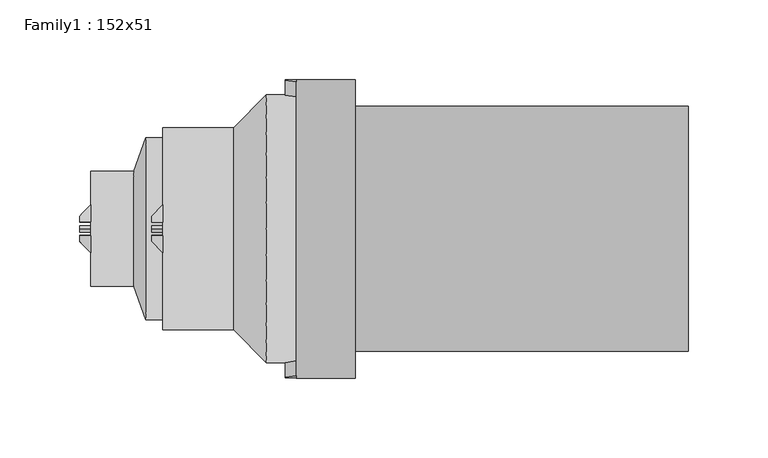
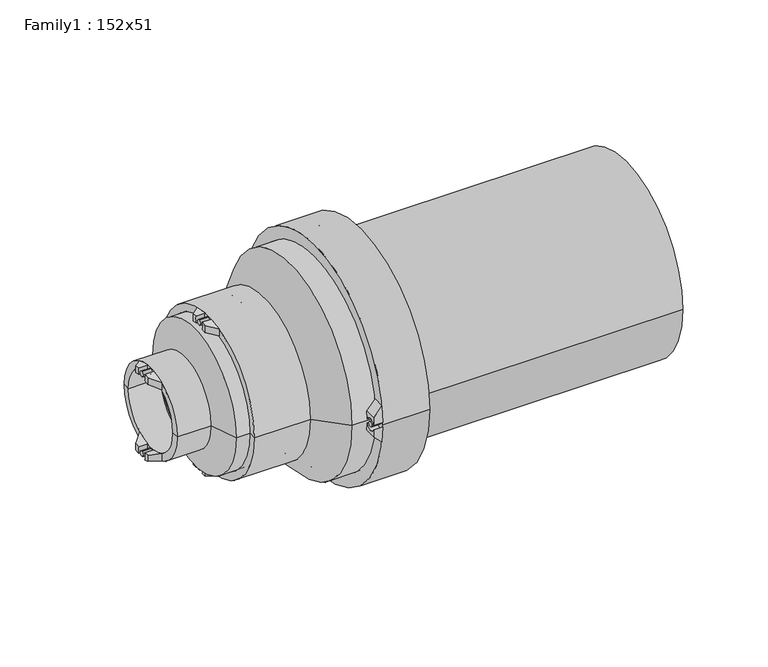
"""IFC4 building model written with IfcOpenShell, lengths in millimetres: proxy geometry, Family1 : 152x51."""

from ifc_helpers import new_model, si_unit, point, frame, frame_2d, origin, place, context, project, spatial, polyline, circle_curve, ellipse_curve, trimmed, segment, composite_curve, outline, extrude, source, transform, mapped, element, save
from ifc_brep_helpers import plane_surface, cylinder_surface, revolved_surface, advanced_brep


def family1_152x51_664cd001(model_context):
    return source(origin(), model_context, "Body", "SolidModel", [
        advanced_brep(
        [(-382.6, 4.0250429, 30.2836842), (-382.6, 4.3677433, 35.6836842), (-382.6, 7.94, 35.0622147), (-382.6, 7.94, 29.5001508), (-375.5, 15.0, 32.6711264), (-375.5, 4.3677433, 35.6836842), (-375.5, 4.0250429, 30.2836842), (-375.5, 15.0, 26.6139531)],
        [
            (0, 1, circle_curve(frame((-382.6, 0.0, 33.25), z_axis=(1.0, 0.0, 0.0), x_axis=(0.0, 0.0, -1.0)), 5.0)),
            (1, 2, circle_curve(frame((-382.6, 0.0, 0.0), z_axis=(-1.0, 0.0, 0.0), x_axis=(0.0, 0.0, -1.0)), 35.95)),
            (2, 3),
            (3, 0, circle_curve(frame((-382.6, 0.0, 0.0), z_axis=(1.0, 0.0, 0.0), x_axis=(0.0, 0.0, -1.0)), 30.55)),
            (4, 5, circle_curve(frame((-375.5, 0.0, 0.0), z_axis=(1.0, 0.0, 0.0), x_axis=(0.0, 0.0, -1.0)), 35.95)),
            (5, 6, circle_curve(frame((-375.5, 0.0, 33.25), z_axis=(-1.0, 0.0, 0.0), x_axis=(0.0, 0.0, -1.0)), 5.0)),
            (6, 7, circle_curve(frame((-375.5, 0.0, 0.0), z_axis=(-1.0, 0.0, 0.0), x_axis=(0.0, 0.0, -1.0)), 30.55)),
            (7, 4),
            (6, 0),
            (3, 7, ellipse_curve(frame((-390.5849858, 0.0, 0.0), z_axis=(-0.7051064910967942, 0.709101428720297, 0.0), x_axis=(0.7091014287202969, 0.7051064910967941, 0.0)), 43.3267888, 30.55)),
            (4, 2, ellipse_curve(frame((-390.5849858, 0.0, 0.0), z_axis=(0.7051064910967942, -0.709101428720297, 0.0), x_axis=(-0.7091014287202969, -0.7051064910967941, 0.0)), 50.9852064, 35.95)),
            (1, 5),
        ],
        [
            plane_surface(frame((-382.6, 15.0, 32.6711264), z_axis=(-1.0, 0.0, 0.0), x_axis=(0.0, 0.0, -1.0))),
            plane_surface(frame((-375.5, 15.0, 32.6711264), z_axis=(1.0, 0.0, 0.0), x_axis=(0.0, 0.0, 1.0))),
            revolved_surface(polyline([(-359.8618979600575, 0.0, -30.55), (-421.30807363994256, 0.0, -30.55)]), (-375.5, 0.0, 0.0), (1.0, 0.0, 0.0)),
            cylinder_surface(frame((-375.5, 0.0, 0.0), z_axis=(-1.0, 0.0, 0.0), x_axis=(0.0, 0.0, -1.0)), 35.95),
            revolved_surface(polyline([(-382.6, 0.0, 28.25), (-375.5, 0.0, 28.25)]), (-375.5, 0.0, 33.25), (-1.0, 0.0, 0.0)),
            plane_surface(frame((-375.5, 15.0, -35.95), z_axis=(-0.7051064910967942, 0.709101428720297, 0.0), x_axis=(0.0, 0.0, 1.0))),
        ],
        [
            (0, [[1, 2, 3, 4]]),
            (1, [[5, 6, 7, 8]]),
            (2, [[-7, 9, -4, 10]]),
            (3, [[-5, 11, -2, 12]]),
            (4, [[-1, -9, -6, -12]]),
            (5, [[-3, -11, -8, -10]]),
        ],
    ),
        advanced_brep(
        [(-382.6, -4.3677433, 35.6836842), (-382.6, -4.0250429, 30.2836842), (-382.6, -7.94, 29.5001508), (-382.6, -7.94, 35.0622147), (-375.5, -4.3677433, 35.6836842), (-375.5, -15.0, 32.6711264), (-375.5, -15.0, 26.6139531), (-375.5, -4.0250429, 30.2836842)],
        [
            (0, 1, circle_curve(frame((-382.6, 0.0, 33.25), z_axis=(1.0, 0.0, 0.0), x_axis=(0.0, 0.0, -1.0)), 5.0)),
            (1, 2, circle_curve(frame((-382.6, 0.0, 0.0), z_axis=(1.0, 0.0, 0.0), x_axis=(0.0, 0.0, -1.0)), 30.55)),
            (2, 3),
            (3, 0, circle_curve(frame((-382.6, 0.0, 0.0), z_axis=(-1.0, 0.0, 0.0), x_axis=(0.0, 0.0, -1.0)), 35.95)),
            (4, 5, circle_curve(frame((-375.5, 0.0, 0.0), z_axis=(1.0, 0.0, 0.0), x_axis=(0.0, 0.0, -1.0)), 35.95)),
            (5, 6),
            (6, 7, circle_curve(frame((-375.5, 0.0, 0.0), z_axis=(-1.0, 0.0, 0.0), x_axis=(0.0, 0.0, -1.0)), 30.55)),
            (7, 4, circle_curve(frame((-375.5, 0.0, 33.25), z_axis=(-1.0, 0.0, 0.0), x_axis=(0.0, 0.0, -1.0)), 5.0)),
            (6, 2, ellipse_curve(frame((-390.5849858, 0.0, 0.0), z_axis=(-0.7051064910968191, -0.7091014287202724, 0.0), x_axis=(0.709101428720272, -0.7051064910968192, 0.0)), 43.3267888, 30.55)),
            (1, 7),
            (4, 0),
            (3, 5, ellipse_curve(frame((-390.5849858, 0.0, 0.0), z_axis=(0.7051064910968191, 0.7091014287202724, 0.0), x_axis=(-0.709101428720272, 0.7051064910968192, 0.0)), 50.9852064, 35.95)),
        ],
        [
            plane_surface(frame((-382.6, 15.0, 32.6711264), z_axis=(-1.0, 0.0, 0.0), x_axis=(0.0, 0.0, -1.0))),
            plane_surface(frame((-375.5, 15.0, 32.6711264), z_axis=(1.0, 0.0, 0.0), x_axis=(0.0, 0.0, 1.0))),
            revolved_surface(polyline([(-359.86189796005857, 0.0, -30.55), (-421.30807363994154, 0.0, -30.55)]), (-375.5, 0.0, 0.0), (1.0, 0.0, 0.0)),
            cylinder_surface(frame((-375.5, 0.0, 0.0), z_axis=(-1.0, 0.0, 0.0), x_axis=(0.0, 0.0, -1.0)), 35.95),
            revolved_surface(polyline([(-382.6, 0.0, 28.25), (-375.5, 0.0, 28.25)]), (-375.5, 0.0, 33.25), (-1.0, 0.0, 0.0)),
            plane_surface(frame((-382.6, -7.94, -35.95), z_axis=(-0.7051064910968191, -0.7091014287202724, 0.0), x_axis=(0.0, 0.0, 1.0))),
        ],
        [
            (0, [[1, 2, 3, 4]]),
            (1, [[5, 6, 7, 8]]),
            (2, [[-7, 9, -2, 10]]),
            (3, [[-5, 11, -4, 12]]),
            (4, [[-1, -11, -8, -10]]),
            (5, [[-3, -9, -6, -12]]),
        ],
    ),
        advanced_brep(
        [(-382.6, 4.3677433, -35.6836842), (-382.6, 4.0250429, -30.2836842), (-382.6, 7.94, -29.5001508), (-382.6, 7.94, -35.0622147), (-375.5, 4.3677433, -35.6836842), (-375.5, 15.0, -32.6711264), (-375.5, 15.0, -26.6139531), (-375.5, 4.0250429, -30.2836842)],
        [
            (0, 1, circle_curve(frame((-382.6, 0.0, -33.25), z_axis=(1.0, 0.0, 0.0), x_axis=(0.0, 0.0, -1.0)), 5.0)),
            (1, 2, circle_curve(frame((-382.6, 0.0, 0.0), z_axis=(1.0, 0.0, 0.0), x_axis=(0.0, 0.0, -1.0)), 30.55)),
            (2, 3),
            (3, 0, circle_curve(frame((-382.6, 0.0, 0.0), z_axis=(-1.0, 0.0, 0.0), x_axis=(0.0, 0.0, -1.0)), 35.95)),
            (4, 5, circle_curve(frame((-375.5, 0.0, 0.0), z_axis=(1.0, 0.0, 0.0), x_axis=(0.0, 0.0, -1.0)), 35.95)),
            (5, 6),
            (6, 7, circle_curve(frame((-375.5, 0.0, 0.0), z_axis=(-1.0, 0.0, 0.0), x_axis=(0.0, 0.0, -1.0)), 30.55)),
            (7, 4, circle_curve(frame((-375.5, 0.0, -33.25), z_axis=(-1.0, 0.0, 0.0), x_axis=(0.0, 0.0, -1.0)), 5.0)),
            (6, 2, ellipse_curve(frame((-390.5849858, 0.0, 0.0), z_axis=(-0.7051064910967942, 0.709101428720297, 0.0), x_axis=(0.7091014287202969, 0.7051064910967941, 0.0)), 43.3267888, 30.55)),
            (1, 7),
            (4, 0),
            (3, 5, ellipse_curve(frame((-390.5849858, 0.0, 0.0), z_axis=(0.7051064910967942, -0.709101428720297, 0.0), x_axis=(-0.7091014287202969, -0.7051064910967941, 0.0)), 50.9852064, 35.95)),
        ],
        [
            plane_surface(frame((-382.6, 15.0, 32.6711264), z_axis=(-1.0, 0.0, 0.0), x_axis=(0.0, 0.0, -1.0))),
            plane_surface(frame((-375.5, 15.0, 32.6711264), z_axis=(1.0, 0.0, 0.0), x_axis=(0.0, 0.0, 1.0))),
            revolved_surface(polyline([(-359.8618979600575, 0.0, -30.55), (-421.30807363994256, 0.0, -30.55)]), (-375.5, 0.0, 0.0), (1.0, 0.0, 0.0)),
            cylinder_surface(frame((-375.5, 0.0, 0.0), z_axis=(-1.0, 0.0, 0.0), x_axis=(0.0, 0.0, -1.0)), 35.95),
            revolved_surface(polyline([(-382.6, 0.0, -38.25), (-375.5, 0.0, -38.25)]), (-375.5, 0.0, -33.25), (-1.0, 0.0, 0.0)),
            plane_surface(frame((-375.5, 15.0, -35.95), z_axis=(-0.7051064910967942, 0.709101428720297, 0.0), x_axis=(0.0, 0.0, 1.0))),
        ],
        [
            (0, [[1, 2, 3, 4]]),
            (1, [[5, 6, 7, 8]]),
            (2, [[-7, 9, -2, 10]]),
            (3, [[-5, 11, -4, 12]]),
            (4, [[-1, -11, -8, -10]]),
            (5, [[-3, -9, -6, -12]]),
        ],
    ),
        advanced_brep(
        [(-382.6, -4.0250429, -30.2836842), (-382.6, -4.3677433, -35.6836842), (-382.6, -7.94, -35.0622147), (-382.6, -7.94, -29.5001508), (-375.5, -15.0, -32.6711264), (-375.5, -4.3677433, -35.6836842), (-375.5, -4.0250429, -30.2836842), (-375.5, -15.0, -26.6139531)],
        [
            (0, 1, circle_curve(frame((-382.6, 0.0, -33.25), z_axis=(1.0, 0.0, 0.0), x_axis=(0.0, 0.0, -1.0)), 5.0)),
            (1, 2, circle_curve(frame((-382.6, 0.0, 0.0), z_axis=(-1.0, 0.0, 0.0), x_axis=(0.0, 0.0, -1.0)), 35.95)),
            (2, 3),
            (3, 0, circle_curve(frame((-382.6, 0.0, 0.0), z_axis=(1.0, 0.0, 0.0), x_axis=(0.0, 0.0, -1.0)), 30.55)),
            (4, 5, circle_curve(frame((-375.5, 0.0, 0.0), z_axis=(1.0, 0.0, 0.0), x_axis=(0.0, 0.0, -1.0)), 35.95)),
            (5, 6, circle_curve(frame((-375.5, 0.0, -33.25), z_axis=(-1.0, 0.0, 0.0), x_axis=(0.0, 0.0, -1.0)), 5.0)),
            (6, 7, circle_curve(frame((-375.5, 0.0, 0.0), z_axis=(-1.0, 0.0, 0.0), x_axis=(0.0, 0.0, -1.0)), 30.55)),
            (7, 4),
            (6, 0),
            (3, 7, ellipse_curve(frame((-390.5849858, 0.0, 0.0), z_axis=(-0.7051064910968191, -0.7091014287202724, 0.0), x_axis=(0.709101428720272, -0.7051064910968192, 0.0)), 43.3267888, 30.55)),
            (4, 2, ellipse_curve(frame((-390.5849858, 0.0, 0.0), z_axis=(0.7051064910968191, 0.7091014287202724, 0.0), x_axis=(-0.709101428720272, 0.7051064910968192, 0.0)), 50.9852064, 35.95)),
            (1, 5),
        ],
        [
            plane_surface(frame((-382.6, 15.0, 32.6711264), z_axis=(-1.0, 0.0, 0.0), x_axis=(0.0, 0.0, -1.0))),
            plane_surface(frame((-375.5, 15.0, 32.6711264), z_axis=(1.0, 0.0, 0.0), x_axis=(0.0, 0.0, 1.0))),
            revolved_surface(polyline([(-359.86189796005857, 0.0, -30.55), (-421.30807363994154, 0.0, -30.55)]), (-375.5, 0.0, 0.0), (1.0, 0.0, 0.0)),
            cylinder_surface(frame((-375.5, 0.0, 0.0), z_axis=(-1.0, 0.0, 0.0), x_axis=(0.0, 0.0, -1.0)), 35.95),
            revolved_surface(polyline([(-382.6, 0.0, -38.25), (-375.5, 0.0, -38.25)]), (-375.5, 0.0, -33.25), (-1.0, 0.0, 0.0)),
            plane_surface(frame((-382.6, -7.94, -35.95), z_axis=(-0.7051064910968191, -0.7091014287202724, 0.0), x_axis=(0.0, 0.0, 1.0))),
        ],
        [
            (0, [[1, 2, 3, 4]]),
            (1, [[5, 6, 7, 8]]),
            (2, [[-7, 9, -4, 10]]),
            (3, [[-5, 11, -2, 12]]),
            (4, [[-1, -9, -6, -12]]),
            (5, [[-3, -11, -8, -10]]),
        ],
    ),
        extrude(outline(composite_curve([segment(trimmed(circle_curve(frame_2d((0.0, 33.25)), 2.0), [point((0.0, 35.25))], [point((0.0, 31.25))], False, "CARTESIAN"), True, "CONTINUOUS"), segment(trimmed(circle_curve(frame_2d((0.0, 33.25)), 2.0), [point((0.0, 31.25))], [point((0.0, 35.25))], False, "CARTESIAN"), True, "CONTINUOUS")], self_intersect=False)), frame((-382.6, 0.0, 0.0), z_axis=(1.0, 0.0, 0.0), x_axis=(0.0, 1.0, 0.0)), (0.0, 0.0, 1.0), 7.1),
        extrude(outline(composite_curve([segment(trimmed(circle_curve(frame_2d((0.0, -33.25)), 2.0), [point((0.0, -31.25))], [point((0.0, -35.25))], False, "CARTESIAN"), True, "CONTINUOUS"), segment(trimmed(circle_curve(frame_2d((0.0, -33.25)), 2.0), [point((0.0, -35.25))], [point((0.0, -31.25))], False, "CARTESIAN"), True, "CONTINUOUS")], self_intersect=False)), frame((-382.6, 0.0, 0.0), z_axis=(1.0, 0.0, 0.0), x_axis=(0.0, 1.0, 0.0)), (0.0, 0.0, 1.0), 7.1),
        advanced_brep(
        [(-341.0, 57.15, 0.0), (-341.0, -57.15, 0.0), (-348.5, -36.1, 0.0), (-348.5, 36.1, 0.0), (-292.0, 57.15, 0.0), (-292.0, -57.15, 0.0), (-292.0, 50.65, 0.0), (-292.0, -50.65, 0.0), (-333.7, 50.65, 0.0), (-333.7, -50.65, 0.0), (-375.5, 30.4, 0.0), (-375.5, -30.4, 0.0), (-350.3, -30.4, 0.0), (-350.3, 30.4, 0.0), (-375.5, 36.1, 0.0), (-375.5, -36.1, 0.0), (-342.5, 28.0, 0.0), (-342.5, -28.0, 0.0), (-350.3, 28.0, 0.0), (-350.3, -28.0, 0.0)],
        [
            (0, 1, circle_curve(frame((-341.0, 0.0, 0.0), z_axis=(-1.0, 0.0, 0.0), x_axis=(0.0, -1.0, 0.0)), 57.15)),
            (1, 2),
            (2, 3, circle_curve(frame((-348.5, 0.0, 0.0), z_axis=(1.0, 0.0, 0.0), x_axis=(0.0, -1.0, 0.0)), 36.1)),
            (3, 0),
            (1, 0, circle_curve(frame((-341.0, 0.0, 0.0), z_axis=(-1.0, 0.0, 0.0), x_axis=(0.0, -1.0, 0.0)), 57.15)),
            (3, 2, circle_curve(frame((-348.5, 0.0, 0.0), z_axis=(1.0, 0.0, 0.0), x_axis=(0.0, -1.0, 0.0)), 36.1)),
            (4, 5, circle_curve(frame((-292.0, 0.0, 0.0), z_axis=(-1.0, 0.0, 0.0), x_axis=(0.0, -1.0, 0.0)), 57.15)),
            (5, 1),
            (0, 4),
            (5, 4, circle_curve(frame((-292.0, 0.0, 0.0), z_axis=(-1.0, 0.0, 0.0), x_axis=(0.0, -1.0, 0.0)), 57.15)),
            (6, 7, circle_curve(frame((-292.0, 0.0, 0.0), z_axis=(-1.0, 0.0, 0.0), x_axis=(0.0, -1.0, 0.0)), 50.65)),
            (7, 5),
            (4, 6),
            (7, 6, circle_curve(frame((-292.0, 0.0, 0.0), z_axis=(-1.0, 0.0, 0.0), x_axis=(0.0, -1.0, 0.0)), 50.65)),
            (8, 9, circle_curve(frame((-333.7, 0.0, 0.0), z_axis=(-1.0, 0.0, 0.0), x_axis=(0.0, -1.0, 0.0)), 50.65)),
            (9, 7),
            (6, 8),
            (9, 8, circle_curve(frame((-333.7, 0.0, 0.0), z_axis=(-1.0, 0.0, 0.0), x_axis=(0.0, -1.0, 0.0)), 50.65)),
            (10, 11, circle_curve(frame((-375.5, 0.0, 0.0), z_axis=(-1.0, 0.0, 0.0), x_axis=(0.0, -1.0, 0.0)), 30.4)),
            (11, 12),
            (12, 13, circle_curve(frame((-350.3, 0.0, 0.0), z_axis=(1.0, 0.0, 0.0), x_axis=(0.0, -1.0, 0.0)), 30.4)),
            (13, 10),
            (11, 10, circle_curve(frame((-375.5, 0.0, 0.0), z_axis=(-1.0, 0.0, 0.0), x_axis=(0.0, -1.0, 0.0)), 30.4)),
            (13, 12, circle_curve(frame((-350.3, 0.0, 0.0), z_axis=(1.0, 0.0, 0.0), x_axis=(0.0, -1.0, 0.0)), 30.4)),
            (14, 15, circle_curve(frame((-375.5, 0.0, 0.0), z_axis=(-1.0, 0.0, 0.0), x_axis=(0.0, -1.0, 0.0)), 36.1)),
            (15, 11),
            (10, 14),
            (15, 14, circle_curve(frame((-375.5, 0.0, 0.0), z_axis=(-1.0, 0.0, 0.0), x_axis=(0.0, -1.0, 0.0)), 36.1)),
            (2, 15),
            (14, 3),
            (16, 17, circle_curve(frame((-342.5, 0.0, 0.0), z_axis=(-1.0, 0.0, 0.0), x_axis=(0.0, -1.0, 0.0)), 28.0)),
            (17, 9),
            (8, 16),
            (17, 16, circle_curve(frame((-342.5, 0.0, 0.0), z_axis=(-1.0, 0.0, 0.0), x_axis=(0.0, -1.0, 0.0)), 28.0)),
            (18, 19, circle_curve(frame((-350.3, 0.0, 0.0), z_axis=(-1.0, 0.0, 0.0), x_axis=(0.0, -1.0, 0.0)), 28.0)),
            (19, 17),
            (16, 18),
            (19, 18, circle_curve(frame((-350.3, 0.0, 0.0), z_axis=(-1.0, 0.0, 0.0), x_axis=(0.0, -1.0, 0.0)), 28.0)),
            (12, 19),
            (18, 13),
        ],
        [
            revolved_surface(polyline([(-348.5, -36.1, 0.0), (-341.0, -57.15, 0.0)]), (-1905.0018184, 0.0, 0.0), (1.0, 0.0, 0.0)),
            cylinder_surface(frame((-1905.0018184, 0.0, 0.0), z_axis=(1.0, 0.0, 0.0), x_axis=(0.0, -1.0, 0.0)), 57.15),
            plane_surface(frame((-292.0, 0.0, 0.0), z_axis=(1.0, 0.0, 0.0), x_axis=(0.0, -1.0, 0.0))),
            revolved_surface(polyline([(-292.0, -50.65, 0.0), (-333.70000000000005, -50.65, 0.0)]), (-1905.0018184, 0.0, 0.0), (1.0, 0.0, 0.0)),
            revolved_surface(polyline([(-350.29999999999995, -30.4, 0.0), (-375.5, -30.4, 0.0)]), (-1905.0018184, 0.0, 0.0), (1.0, 0.0, 0.0)),
            plane_surface(frame((-375.5, 0.0, 0.0), z_axis=(-1.0, 0.0, 0.0), x_axis=(0.0, -1.0, 0.0))),
            cylinder_surface(frame((-1905.0018184, 0.0, 0.0), z_axis=(1.0, 0.0, 0.0), x_axis=(0.0, -1.0, 0.0)), 36.1),
            revolved_surface(polyline([(-333.7, -50.65, 0.0), (-342.5, -28.0, 0.0)]), (-1905.0018184, 0.0, 0.0), (1.0, 0.0, 0.0)),
            revolved_surface(polyline([(-342.5, -28.0, 0.0), (-350.29999999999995, -28.0, 0.0)]), (-1905.0018184, 0.0, 0.0), (1.0, 0.0, 0.0)),
            plane_surface(frame((-350.3, 0.0, 0.0), z_axis=(-1.0, 0.0, 0.0), x_axis=(0.0, -1.0, 0.0))),
        ],
        [
            (0, [[1, 2, 3, 4]]),
            (0, [[5, -4, 6, -2]]),
            (1, [[7, 8, -1, 9]]),
            (1, [[10, -9, -5, -8]]),
            (2, [[11, 12, -7, 13]]),
            (2, [[14, -13, -10, -12]]),
            (3, [[15, 16, -11, 17]]),
            (3, [[18, -17, -14, -16]]),
            (4, [[19, 20, 21, 22]]),
            (4, [[23, -22, 24, -20]]),
            (5, [[25, 26, -19, 27]]),
            (5, [[28, -27, -23, -26]]),
            (6, [[-3, 29, -25, 30]]),
            (6, [[-6, -30, -28, -29]]),
            (7, [[31, 32, -15, 33]]),
            (7, [[34, -33, -18, -32]]),
            (8, [[35, 36, -31, 37]]),
            (8, [[38, -37, -34, -36]]),
            (9, [[-21, 39, -35, 40]]),
            (9, [[-24, -40, -38, -39]]),
        ],
    ),
        advanced_brep(
        [(-253.4, -84.3310253, 1.7890431), (-253.4, -93.6310253, 1.8851008), (-253.4, -93.3128014, 7.94), (-253.4, -83.9754661, 7.94), (-246.3, -92.4409136, 15.0), (-246.3, -93.6310253, 1.8851008), (-246.3, -84.3310253, 1.7890431), (-246.3, -83.005557, 15.0)],
        [
            (0, 1, circle_curve(frame((-253.4, -89.0, 0.0), z_axis=(1.0, 0.0, 0.0), x_axis=(0.0, 1.0, 0.0)), 5.0)),
            (1, 2, circle_curve(frame((-253.4, 0.0, 0.0), z_axis=(-1.0, 0.0, 0.0), x_axis=(0.0, 1.0, 0.0)), 93.65)),
            (2, 3),
            (3, 0, circle_curve(frame((-253.4, 0.0, 0.0), z_axis=(1.0, 0.0, 0.0), x_axis=(0.0, 1.0, 0.0)), 84.35)),
            (4, 5, circle_curve(frame((-246.3, 0.0, 0.0), z_axis=(1.0, 0.0, 0.0), x_axis=(0.0, 1.0, 0.0)), 93.65)),
            (5, 6, circle_curve(frame((-246.3, -89.0, 0.0), z_axis=(-1.0, 0.0, 0.0), x_axis=(0.0, 1.0, 0.0)), 5.0)),
            (6, 7, circle_curve(frame((-246.3, 0.0, 0.0), z_axis=(-1.0, 0.0, 0.0), x_axis=(0.0, 1.0, 0.0)), 84.35)),
            (7, 4),
            (6, 0),
            (3, 7, ellipse_curve(frame((-261.3849858, 0.0, 0.0), z_axis=(-0.705106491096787, 0.0, 0.7091014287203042), x_axis=(0.7091014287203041, 0.0, 0.705106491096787)), 119.6273202, 84.35)),
            (4, 2, ellipse_curve(frame((-261.3849858, 0.0, 0.0), z_axis=(0.705106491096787, 0.0, -0.7091014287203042), x_axis=(-0.7091014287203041, 0.0, -0.705106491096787)), 132.8168173, 93.65)),
            (1, 5),
        ],
        [
            plane_surface(frame((-253.4, -92.4409136, 15.0), z_axis=(-1.0, 0.0, 0.0), x_axis=(0.0, 1.0, 0.0))),
            plane_surface(frame((-246.3, -92.4409136, 15.0), z_axis=(1.0, 0.0, 0.0), x_axis=(0.0, -1.0, 0.0))),
            revolved_surface(polyline([(-176.55708213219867, 84.35, 0.0), (-346.2128894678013, 84.35, 0.0)]), (-246.3, 0.0, 0.0), (1.0, 0.0, 0.0)),
            cylinder_surface(frame((-246.3, 0.0, 0.0), z_axis=(-1.0, 0.0, 0.0), x_axis=(0.0, 1.0, 0.0)), 93.65),
            revolved_surface(polyline([(-253.4, -84.0, 0.0), (-246.3, -84.0, 0.0)]), (-246.3, -89.0, 0.0), (-1.0, 0.0, 0.0)),
            plane_surface(frame((-246.3, 93.65, 15.0), z_axis=(-0.705106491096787, 0.0, 0.7091014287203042), x_axis=(0.0, -1.0, 0.0))),
        ],
        [
            (0, [[1, 2, 3, 4]]),
            (1, [[5, 6, 7, 8]]),
            (2, [[-7, 9, -4, 10]]),
            (3, [[-5, 11, -2, 12]]),
            (4, [[-1, -9, -6, -12]]),
            (5, [[-3, -11, -8, -10]]),
        ],
    ),
        advanced_brep(
        [(-253.4, -93.6310253, -1.8851008), (-253.4, -84.3310253, -1.7890431), (-253.4, -83.9754661, -7.94), (-253.4, -93.3128014, -7.94), (-246.3, -93.6310253, -1.8851008), (-246.3, -92.4409136, -15.0), (-246.3, -83.005557, -15.0), (-246.3, -84.3310253, -1.7890431)],
        [
            (0, 1, circle_curve(frame((-253.4, -89.0, 0.0), z_axis=(1.0, 0.0, 0.0), x_axis=(0.0, 1.0, 0.0)), 5.0)),
            (1, 2, circle_curve(frame((-253.4, 0.0, 0.0), z_axis=(1.0, 0.0, 0.0), x_axis=(0.0, 1.0, 0.0)), 84.35)),
            (2, 3),
            (3, 0, circle_curve(frame((-253.4, 0.0, 0.0), z_axis=(-1.0, 0.0, 0.0), x_axis=(0.0, 1.0, 0.0)), 93.65)),
            (4, 5, circle_curve(frame((-246.3, 0.0, 0.0), z_axis=(1.0, 0.0, 0.0), x_axis=(0.0, 1.0, 0.0)), 93.65)),
            (5, 6),
            (6, 7, circle_curve(frame((-246.3, 0.0, 0.0), z_axis=(-1.0, 0.0, 0.0), x_axis=(0.0, 1.0, 0.0)), 84.35)),
            (7, 4, circle_curve(frame((-246.3, -89.0, 0.0), z_axis=(-1.0, 0.0, 0.0), x_axis=(0.0, 1.0, 0.0)), 5.0)),
            (6, 2, ellipse_curve(frame((-261.3849858, 0.0, 0.0), z_axis=(-0.7051064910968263, 0.0, -0.7091014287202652), x_axis=(0.7091014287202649, 0.0, -0.7051064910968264)), 119.6273202, 84.35)),
            (1, 7),
            (4, 0),
            (3, 5, ellipse_curve(frame((-261.3849858, 0.0, 0.0), z_axis=(0.7051064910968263, 0.0, 0.7091014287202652), x_axis=(-0.7091014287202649, 0.0, 0.7051064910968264)), 132.8168173, 93.65)),
        ],
        [
            plane_surface(frame((-253.4, -92.4409136, 15.0), z_axis=(-1.0, 0.0, 0.0), x_axis=(0.0, 1.0, 0.0))),
            plane_surface(frame((-246.3, -92.4409136, 15.0), z_axis=(1.0, 0.0, 0.0), x_axis=(0.0, -1.0, 0.0))),
            revolved_surface(polyline([(-176.5570821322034, 84.35, 0.0), (-346.2128894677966, 84.35, 0.0)]), (-246.3, 0.0, 0.0), (1.0, 0.0, 0.0)),
            cylinder_surface(frame((-246.3, 0.0, 0.0), z_axis=(-1.0, 0.0, 0.0), x_axis=(0.0, 1.0, 0.0)), 93.65),
            revolved_surface(polyline([(-253.4, -84.0, 0.0), (-246.3, -84.0, 0.0)]), (-246.3, -89.0, 0.0), (-1.0, 0.0, 0.0)),
            plane_surface(frame((-253.4, 93.65, -7.94), z_axis=(-0.7051064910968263, 0.0, -0.7091014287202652), x_axis=(0.0, -1.0, 0.0))),
        ],
        [
            (0, [[1, 2, 3, 4]]),
            (1, [[5, 6, 7, 8]]),
            (2, [[-7, 9, -2, 10]]),
            (3, [[-5, 11, -4, 12]]),
            (4, [[-1, -11, -8, -10]]),
            (5, [[-3, -9, -6, -12]]),
        ],
    ),
        advanced_brep(
        [(-253.4, 93.6310253, 1.8851008), (-253.4, 84.3310253, 1.7890431), (-253.4, 83.9754661, 7.94), (-253.4, 93.3128014, 7.94), (-246.3, 93.6310253, 1.8851008), (-246.3, 92.4409136, 15.0), (-246.3, 83.005557, 15.0), (-246.3, 84.3310253, 1.7890431)],
        [
            (0, 1, circle_curve(frame((-253.4, 89.0, 0.0), z_axis=(1.0, 0.0, 0.0), x_axis=(0.0, 1.0, 0.0)), 5.0)),
            (1, 2, circle_curve(frame((-253.4, 0.0, 0.0), z_axis=(1.0, 0.0, 0.0), x_axis=(0.0, 1.0, 0.0)), 84.35)),
            (2, 3),
            (3, 0, circle_curve(frame((-253.4, 0.0, 0.0), z_axis=(-1.0, 0.0, 0.0), x_axis=(0.0, 1.0, 0.0)), 93.65)),
            (4, 5, circle_curve(frame((-246.3, 0.0, 0.0), z_axis=(1.0, 0.0, 0.0), x_axis=(0.0, 1.0, 0.0)), 93.65)),
            (5, 6),
            (6, 7, circle_curve(frame((-246.3, 0.0, 0.0), z_axis=(-1.0, 0.0, 0.0), x_axis=(0.0, 1.0, 0.0)), 84.35)),
            (7, 4, circle_curve(frame((-246.3, 89.0, 0.0), z_axis=(-1.0, 0.0, 0.0), x_axis=(0.0, 1.0, 0.0)), 5.0)),
            (6, 2, ellipse_curve(frame((-261.3849858, 0.0, 0.0), z_axis=(-0.705106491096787, 0.0, 0.7091014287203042), x_axis=(0.7091014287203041, 0.0, 0.705106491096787)), 119.6273202, 84.35)),
            (1, 7),
            (4, 0),
            (3, 5, ellipse_curve(frame((-261.3849858, 0.0, 0.0), z_axis=(0.705106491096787, 0.0, -0.7091014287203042), x_axis=(-0.7091014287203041, 0.0, -0.705106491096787)), 132.8168173, 93.65)),
        ],
        [
            plane_surface(frame((-253.4, -92.4409136, 15.0), z_axis=(-1.0, 0.0, 0.0), x_axis=(0.0, 1.0, 0.0))),
            plane_surface(frame((-246.3, -92.4409136, 15.0), z_axis=(1.0, 0.0, 0.0), x_axis=(0.0, -1.0, 0.0))),
            revolved_surface(polyline([(-176.55708213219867, 84.35, 0.0), (-346.2128894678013, 84.35, 0.0)]), (-246.3, 0.0, 0.0), (1.0, 0.0, 0.0)),
            cylinder_surface(frame((-246.3, 0.0, 0.0), z_axis=(-1.0, 0.0, 0.0), x_axis=(0.0, 1.0, 0.0)), 93.65),
            revolved_surface(polyline([(-253.4, 94.0, 0.0), (-246.3, 94.0, 0.0)]), (-246.3, 89.0, 0.0), (-1.0, 0.0, 0.0)),
            plane_surface(frame((-246.3, 93.65, 15.0), z_axis=(-0.705106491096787, 0.0, 0.7091014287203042), x_axis=(0.0, -1.0, 0.0))),
        ],
        [
            (0, [[1, 2, 3, 4]]),
            (1, [[5, 6, 7, 8]]),
            (2, [[-7, 9, -2, 10]]),
            (3, [[-5, 11, -4, 12]]),
            (4, [[-1, -11, -8, -10]]),
            (5, [[-3, -9, -6, -12]]),
        ],
    ),
        advanced_brep(
        [(-253.4, 84.3310253, -1.7890431), (-253.4, 93.6310253, -1.8851008), (-253.4, 93.3128014, -7.94), (-253.4, 83.9754661, -7.94), (-246.3, 92.4409136, -15.0), (-246.3, 93.6310253, -1.8851008), (-246.3, 84.3310253, -1.7890431), (-246.3, 83.005557, -15.0)],
        [
            (0, 1, circle_curve(frame((-253.4, 89.0, 0.0), z_axis=(1.0, 0.0, 0.0), x_axis=(0.0, 1.0, 0.0)), 5.0)),
            (1, 2, circle_curve(frame((-253.4, 0.0, 0.0), z_axis=(-1.0, 0.0, 0.0), x_axis=(0.0, 1.0, 0.0)), 93.65)),
            (2, 3),
            (3, 0, circle_curve(frame((-253.4, 0.0, 0.0), z_axis=(1.0, 0.0, 0.0), x_axis=(0.0, 1.0, 0.0)), 84.35)),
            (4, 5, circle_curve(frame((-246.3, 0.0, 0.0), z_axis=(1.0, 0.0, 0.0), x_axis=(0.0, 1.0, 0.0)), 93.65)),
            (5, 6, circle_curve(frame((-246.3, 89.0, 0.0), z_axis=(-1.0, 0.0, 0.0), x_axis=(0.0, 1.0, 0.0)), 5.0)),
            (6, 7, circle_curve(frame((-246.3, 0.0, 0.0), z_axis=(-1.0, 0.0, 0.0), x_axis=(0.0, 1.0, 0.0)), 84.35)),
            (7, 4),
            (6, 0),
            (3, 7, ellipse_curve(frame((-261.3849858, 0.0, 0.0), z_axis=(-0.7051064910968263, 0.0, -0.7091014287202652), x_axis=(0.7091014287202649, 0.0, -0.7051064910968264)), 119.6273202, 84.35)),
            (4, 2, ellipse_curve(frame((-261.3849858, 0.0, 0.0), z_axis=(0.7051064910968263, 0.0, 0.7091014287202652), x_axis=(-0.7091014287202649, 0.0, 0.7051064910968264)), 132.8168173, 93.65)),
            (1, 5),
        ],
        [
            plane_surface(frame((-253.4, -92.4409136, 15.0), z_axis=(-1.0, 0.0, 0.0), x_axis=(0.0, 1.0, 0.0))),
            plane_surface(frame((-246.3, -92.4409136, 15.0), z_axis=(1.0, 0.0, 0.0), x_axis=(0.0, -1.0, 0.0))),
            revolved_surface(polyline([(-176.5570821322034, 84.35, 0.0), (-346.2128894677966, 84.35, 0.0)]), (-246.3, 0.0, 0.0), (1.0, 0.0, 0.0)),
            cylinder_surface(frame((-246.3, 0.0, 0.0), z_axis=(-1.0, 0.0, 0.0), x_axis=(0.0, 1.0, 0.0)), 93.65),
            revolved_surface(polyline([(-253.4, 94.0, 0.0), (-246.3, 94.0, 0.0)]), (-246.3, 89.0, 0.0), (-1.0, 0.0, 0.0)),
            plane_surface(frame((-253.4, 93.65, -7.94), z_axis=(-0.7051064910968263, 0.0, -0.7091014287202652), x_axis=(0.0, -1.0, 0.0))),
        ],
        [
            (0, [[1, 2, 3, 4]]),
            (1, [[5, 6, 7, 8]]),
            (2, [[-7, 9, -4, 10]]),
            (3, [[-5, 11, -2, 12]]),
            (4, [[-1, -9, -6, -12]]),
            (5, [[-3, -11, -8, -10]]),
        ],
    ),
        extrude(outline(composite_curve([segment(trimmed(circle_curve(frame_2d((-89.0, 0.0)), 2.0), [point((-91.0, 0.0))], [point((-87.0, 0.0))], False, "CARTESIAN"), True, "CONTINUOUS"), segment(trimmed(circle_curve(frame_2d((-89.0, 0.0)), 2.0), [point((-87.0, 0.0))], [point((-91.0, 0.0))], False, "CARTESIAN"), True, "CONTINUOUS")], self_intersect=False)), frame((-253.4, 0.0, 0.0), z_axis=(1.0, 0.0, 0.0), x_axis=(0.0, 1.0, 0.0)), (0.0, 0.0, 1.0), 7.1),
        extrude(outline(composite_curve([segment(trimmed(circle_curve(frame_2d((89.0, 0.0)), 2.0), [point((87.0, 0.0))], [point((91.0, 0.0))], False, "CARTESIAN"), True, "CONTINUOUS"), segment(trimmed(circle_curve(frame_2d((89.0, 0.0)), 2.0), [point((91.0, 0.0))], [point((87.0, 0.0))], False, "CARTESIAN"), True, "CONTINUOUS")], self_intersect=False)), frame((-253.4, 0.0, 0.0), z_axis=(1.0, 0.0, 0.0), x_axis=(0.0, 1.0, 0.0)), (0.0, 0.0, 1.0), 7.1),
        advanced_brep(
        [(-214.5, -77.0, 0.0), (-214.5, 77.0, 0.0), (-214.5, 84.2, 0.0), (-214.5, -84.2, 0.0), (-209.4, -77.0, 0.0), (-209.4, 77.0, 0.0), (-209.4, -93.8, 0.0), (-209.4, 93.8, 0.0), (-246.3, -93.8, 0.0), (-246.3, 93.8, 0.0), (-246.3, -84.2, 0.0), (-246.3, 84.2, 0.0)],
        [
            (0, 1, circle_curve(frame((-214.5, 0.0, 0.0), z_axis=(1.0, 0.0, 0.0), x_axis=(0.0, 1.0, 0.0)), 77.0)),
            (1, 2),
            (2, 3, circle_curve(frame((-214.5, 0.0, 0.0), z_axis=(-1.0, 0.0, 0.0), x_axis=(0.0, 1.0, 0.0)), 84.2)),
            (3, 0),
            (1, 0, circle_curve(frame((-214.5, 0.0, 0.0), z_axis=(1.0, 0.0, 0.0), x_axis=(0.0, 1.0, 0.0)), 77.0)),
            (3, 2, circle_curve(frame((-214.5, 0.0, 0.0), z_axis=(-1.0, 0.0, 0.0), x_axis=(0.0, 1.0, 0.0)), 84.2)),
            (4, 5, circle_curve(frame((-209.4, 0.0, 0.0), z_axis=(1.0, 0.0, 0.0), x_axis=(0.0, 1.0, 0.0)), 77.0)),
            (5, 1),
            (0, 4),
            (5, 4, circle_curve(frame((-209.4, 0.0, 0.0), z_axis=(1.0, 0.0, 0.0), x_axis=(0.0, 1.0, 0.0)), 77.0)),
            (6, 7, circle_curve(frame((-209.4, 0.0, 0.0), z_axis=(1.0, 0.0, 0.0), x_axis=(0.0, 1.0, 0.0)), 93.8)),
            (7, 5),
            (4, 6),
            (7, 6, circle_curve(frame((-209.4, 0.0, 0.0), z_axis=(1.0, 0.0, 0.0), x_axis=(0.0, 1.0, 0.0)), 93.8)),
            (8, 9, circle_curve(frame((-246.3, 0.0, 0.0), z_axis=(1.0, 0.0, 0.0), x_axis=(0.0, 1.0, 0.0)), 93.8)),
            (9, 7),
            (6, 8),
            (9, 8, circle_curve(frame((-246.3, 0.0, 0.0), z_axis=(1.0, 0.0, 0.0), x_axis=(0.0, 1.0, 0.0)), 93.8)),
            (10, 11, circle_curve(frame((-246.3, 0.0, 0.0), z_axis=(1.0, 0.0, 0.0), x_axis=(0.0, 1.0, 0.0)), 84.2)),
            (11, 9),
            (8, 10),
            (11, 10, circle_curve(frame((-246.3, 0.0, 0.0), z_axis=(1.0, 0.0, 0.0), x_axis=(0.0, 1.0, 0.0)), 84.2)),
            (2, 11),
            (10, 3),
        ],
        [
            plane_surface(frame((-214.5, 0.0, 0.0), z_axis=(-1.0, 0.0, 0.0), x_axis=(0.0, 1.0, 0.0))),
            revolved_surface(polyline([(-214.5, 77.0, 0.0), (-209.4000000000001, 77.0, 0.0)]), (-2760.2826241, 0.0, 0.0), (-1.0, 0.0, 0.0)),
            plane_surface(frame((-209.4, 0.0, 0.0), z_axis=(1.0, 0.0, 0.0), x_axis=(0.0, 1.0, 0.0))),
            cylinder_surface(frame((-2760.2826241, 0.0, 0.0), z_axis=(-1.0, 0.0, 0.0), x_axis=(0.0, 1.0, 0.0)), 93.8),
            plane_surface(frame((-246.3, 0.0, 0.0), z_axis=(-1.0, 0.0, 0.0), x_axis=(0.0, 1.0, 0.0))),
            revolved_surface(polyline([(-246.30000000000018, 84.2, 0.0), (-214.5, 84.2, 0.0)]), (-2760.2826241, 0.0, 0.0), (-1.0, 0.0, 0.0)),
        ],
        [
            (0, [[1, 2, 3, 4]]),
            (0, [[5, -4, 6, -2]]),
            (1, [[7, 8, -1, 9]]),
            (1, [[10, -9, -5, -8]]),
            (2, [[11, 12, -7, 13]]),
            (2, [[14, -13, -10, -12]]),
            (3, [[15, 16, -11, 17]]),
            (3, [[18, -17, -14, -16]]),
            (4, [[19, 20, -15, 21]]),
            (4, [[22, -21, -18, -20]]),
            (5, [[-3, 23, -19, 24]]),
            (5, [[-6, -24, -22, -23]]),
        ],
    ),
        advanced_brep(
        [(-337.3, 3.9898603, 57.4115277), (-337.3, 4.1846644, 63.1615277), (-337.3, 7.94, 62.800051), (-337.3, 7.94, 56.9996395), (-330.2, 15.0, 61.4970731), (-330.2, 4.1846644, 63.1615277), (-330.2, 3.9898603, 57.4115277), (-330.2, 15.0, 55.5608)],
        [
            (0, 1, circle_curve(frame((-337.3, 0.0, 60.425), z_axis=(1.0, 0.0, 0.0), x_axis=(0.0, 0.0, -1.0)), 5.0)),
            (1, 2, circle_curve(frame((-337.3, 0.0, 0.0), z_axis=(-1.0, 0.0, 0.0), x_axis=(0.0, 0.0, -1.0)), 63.3)),
            (2, 3),
            (3, 0, circle_curve(frame((-337.3, 0.0, 0.0), z_axis=(1.0, 0.0, 0.0), x_axis=(0.0, 0.0, -1.0)), 57.55)),
            (4, 5, circle_curve(frame((-330.2, 0.0, 0.0), z_axis=(1.0, 0.0, 0.0), x_axis=(0.0, 0.0, -1.0)), 63.3)),
            (5, 6, circle_curve(frame((-330.2, 0.0, 60.425), z_axis=(-1.0, 0.0, 0.0), x_axis=(0.0, 0.0, -1.0)), 5.0)),
            (6, 7, circle_curve(frame((-330.2, 0.0, 0.0), z_axis=(-1.0, 0.0, 0.0), x_axis=(0.0, 0.0, -1.0)), 57.55)),
            (7, 4),
            (6, 0),
            (3, 7, ellipse_curve(frame((-345.2849858, 0.0, 0.0), z_axis=(-0.7051064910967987, 0.7091014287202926, 0.0), x_axis=(0.7091014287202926, 0.7051064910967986, 0.0)), 81.618877, 57.55)),
            (4, 2, ellipse_curve(frame((-345.2849858, 0.0, 0.0), z_axis=(0.7051064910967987, -0.7091014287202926, 0.0), x_axis=(-0.7091014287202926, -0.7051064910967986, 0.0)), 89.7736736, 63.3)),
            (1, 5),
        ],
        [
            plane_surface(frame((-337.3, 15.0, 61.4970731), z_axis=(-1.0, 0.0, 0.0), x_axis=(0.0, 0.0, -1.0))),
            plane_surface(frame((-330.2, 15.0, 61.4970731), z_axis=(1.0, 0.0, 0.0), x_axis=(0.0, 0.0, 1.0))),
            revolved_surface(polyline([(-287.4089235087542, 0.0, -57.55), (-403.1610480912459, 0.0, -57.55)]), (-330.2, 0.0, 0.0), (1.0000000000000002, 0.0, 0.0)),
            cylinder_surface(frame((-330.2, 0.0, 0.0), z_axis=(-1.0000000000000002, 0.0, 0.0), x_axis=(0.0, 0.0, -1.0)), 63.3),
            revolved_surface(polyline([(-337.3, 0.0, 55.425), (-330.2, 0.0, 55.425)]), (-330.2, 0.0, 60.425), (-1.0000000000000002, 0.0, 0.0)),
            plane_surface(frame((-330.2, 15.0, -63.3), z_axis=(-0.7051064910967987, 0.7091014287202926, 0.0), x_axis=(0.0, 0.0, 1.0))),
        ],
        [
            (0, [[1, 2, 3, 4]]),
            (1, [[5, 6, 7, 8]]),
            (2, [[-7, 9, -4, 10]]),
            (3, [[-5, 11, -2, 12]]),
            (4, [[-1, -9, -6, -12]]),
            (5, [[-3, -11, -8, -10]]),
        ],
    ),
        advanced_brep(
        [(-337.3, -4.1846644, 63.1615277), (-337.3, -3.9898603, 57.4115277), (-337.3, -7.94, 56.9996395), (-337.3, -7.94, 62.800051), (-330.2, -4.1846644, 63.1615277), (-330.2, -15.0, 61.4970731), (-330.2, -15.0, 55.5608), (-330.2, -3.9898603, 57.4115277)],
        [
            (0, 1, circle_curve(frame((-337.3, 0.0, 60.425), z_axis=(1.0, 0.0, 0.0), x_axis=(0.0, 0.0, -1.0)), 5.0)),
            (1, 2, circle_curve(frame((-337.3, 0.0, 0.0), z_axis=(1.0, 0.0, 0.0), x_axis=(0.0, 0.0, -1.0)), 57.55)),
            (2, 3),
            (3, 0, circle_curve(frame((-337.3, 0.0, 0.0), z_axis=(-1.0, 0.0, 0.0), x_axis=(0.0, 0.0, -1.0)), 63.3)),
            (4, 5, circle_curve(frame((-330.2, 0.0, 0.0), z_axis=(1.0, 0.0, 0.0), x_axis=(0.0, 0.0, -1.0)), 63.3)),
            (5, 6),
            (6, 7, circle_curve(frame((-330.2, 0.0, 0.0), z_axis=(-1.0, 0.0, 0.0), x_axis=(0.0, 0.0, -1.0)), 57.55)),
            (7, 4, circle_curve(frame((-330.2, 0.0, 60.425), z_axis=(-1.0, 0.0, 0.0), x_axis=(0.0, 0.0, -1.0)), 5.0)),
            (6, 2, ellipse_curve(frame((-345.2849858, 0.0, 0.0), z_axis=(-0.7051064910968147, -0.7091014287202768, 0.0), x_axis=(0.7091014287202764, -0.7051064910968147, 0.0)), 81.618877, 57.55)),
            (1, 7),
            (4, 0),
            (3, 5, ellipse_curve(frame((-345.2849858, 0.0, 0.0), z_axis=(0.7051064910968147, 0.7091014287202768, 0.0), x_axis=(-0.7091014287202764, 0.7051064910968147, 0.0)), 89.7736736, 63.3)),
        ],
        [
            plane_surface(frame((-337.3, 15.0, 61.4970731), z_axis=(-1.0, 0.0, 0.0), x_axis=(0.0, 0.0, -1.0))),
            plane_surface(frame((-330.2, 15.0, 61.4970731), z_axis=(1.0, 0.0, 0.0), x_axis=(0.0, 0.0, 1.0))),
            revolved_surface(polyline([(-287.4089235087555, 0.0, -57.55), (-403.16104809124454, 0.0, -57.55)]), (-330.2, 0.0, 0.0), (1.0000000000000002, 0.0, 0.0)),
            cylinder_surface(frame((-330.2, 0.0, 0.0), z_axis=(-1.0000000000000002, 0.0, 0.0), x_axis=(0.0, 0.0, -1.0)), 63.3),
            revolved_surface(polyline([(-337.3, 0.0, 55.425), (-330.2, 0.0, 55.425)]), (-330.2, 0.0, 60.425), (-1.0000000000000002, 0.0, 0.0)),
            plane_surface(frame((-337.3, -7.94, -63.3), z_axis=(-0.7051064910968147, -0.7091014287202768, 0.0), x_axis=(0.0, 0.0, 1.0))),
        ],
        [
            (0, [[1, 2, 3, 4]]),
            (1, [[5, 6, 7, 8]]),
            (2, [[-7, 9, -2, 10]]),
            (3, [[-5, 11, -4, 12]]),
            (4, [[-1, -11, -8, -10]]),
            (5, [[-3, -9, -6, -12]]),
        ],
    ),
        advanced_brep(
        [(-337.3, 4.1846644, -63.1615277), (-337.3, 3.9898603, -57.4115277), (-337.3, 7.94, -56.9996395), (-337.3, 7.94, -62.800051), (-330.2, 4.1846644, -63.1615277), (-330.2, 15.0, -61.4970731), (-330.2, 15.0, -55.5608), (-330.2, 3.9898603, -57.4115277)],
        [
            (0, 1, circle_curve(frame((-337.3, 0.0, -60.425), z_axis=(1.0, 0.0, 0.0), x_axis=(0.0, 0.0, -1.0)), 5.0)),
            (1, 2, circle_curve(frame((-337.3, 0.0, 0.0), z_axis=(1.0, 0.0, 0.0), x_axis=(0.0, 0.0, -1.0)), 57.55)),
            (2, 3),
            (3, 0, circle_curve(frame((-337.3, 0.0, 0.0), z_axis=(-1.0, 0.0, 0.0), x_axis=(0.0, 0.0, -1.0)), 63.3)),
            (4, 5, circle_curve(frame((-330.2, 0.0, 0.0), z_axis=(1.0, 0.0, 0.0), x_axis=(0.0, 0.0, -1.0)), 63.3)),
            (5, 6),
            (6, 7, circle_curve(frame((-330.2, 0.0, 0.0), z_axis=(-1.0, 0.0, 0.0), x_axis=(0.0, 0.0, -1.0)), 57.55)),
            (7, 4, circle_curve(frame((-330.2, 0.0, -60.425), z_axis=(-1.0, 0.0, 0.0), x_axis=(0.0, 0.0, -1.0)), 5.0)),
            (6, 2, ellipse_curve(frame((-345.2849858, 0.0, 0.0), z_axis=(-0.7051064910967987, 0.7091014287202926, 0.0), x_axis=(0.7091014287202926, 0.7051064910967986, 0.0)), 81.618877, 57.55)),
            (1, 7),
            (4, 0),
            (3, 5, ellipse_curve(frame((-345.2849858, 0.0, 0.0), z_axis=(0.7051064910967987, -0.7091014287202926, 0.0), x_axis=(-0.7091014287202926, -0.7051064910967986, 0.0)), 89.7736736, 63.3)),
        ],
        [
            plane_surface(frame((-337.3, 15.0, 61.4970731), z_axis=(-1.0, 0.0, 0.0), x_axis=(0.0, 0.0, -1.0))),
            plane_surface(frame((-330.2, 15.0, 61.4970731), z_axis=(1.0, 0.0, 0.0), x_axis=(0.0, 0.0, 1.0))),
            revolved_surface(polyline([(-287.4089235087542, 0.0, -57.55), (-403.1610480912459, 0.0, -57.55)]), (-330.2, 0.0, 0.0), (1.0000000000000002, 0.0, 0.0)),
            cylinder_surface(frame((-330.2, 0.0, 0.0), z_axis=(-1.0000000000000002, 0.0, 0.0), x_axis=(0.0, 0.0, -1.0)), 63.3),
            revolved_surface(polyline([(-337.3, 0.0, -65.425), (-330.2, 0.0, -65.425)]), (-330.2, 0.0, -60.425), (-1.0000000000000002, 0.0, 0.0)),
            plane_surface(frame((-330.2, 15.0, -63.3), z_axis=(-0.7051064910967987, 0.7091014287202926, 0.0), x_axis=(0.0, 0.0, 1.0))),
        ],
        [
            (0, [[1, 2, 3, 4]]),
            (1, [[5, 6, 7, 8]]),
            (2, [[-7, 9, -2, 10]]),
            (3, [[-5, 11, -4, 12]]),
            (4, [[-1, -11, -8, -10]]),
            (5, [[-3, -9, -6, -12]]),
        ],
    ),
        advanced_brep(
        [(-337.3, -3.9898603, -57.4115277), (-337.3, -4.1846644, -63.1615277), (-337.3, -7.94, -62.800051), (-337.3, -7.94, -56.9996395), (-330.2, -15.0, -61.4970731), (-330.2, -4.1846644, -63.1615277), (-330.2, -3.9898603, -57.4115277), (-330.2, -15.0, -55.5608)],
        [
            (0, 1, circle_curve(frame((-337.3, 0.0, -60.425), z_axis=(1.0, 0.0, 0.0), x_axis=(0.0, 0.0, -1.0)), 5.0)),
            (1, 2, circle_curve(frame((-337.3, 0.0, 0.0), z_axis=(-1.0, 0.0, 0.0), x_axis=(0.0, 0.0, -1.0)), 63.3)),
            (2, 3),
            (3, 0, circle_curve(frame((-337.3, 0.0, 0.0), z_axis=(1.0, 0.0, 0.0), x_axis=(0.0, 0.0, -1.0)), 57.55)),
            (4, 5, circle_curve(frame((-330.2, 0.0, 0.0), z_axis=(1.0, 0.0, 0.0), x_axis=(0.0, 0.0, -1.0)), 63.3)),
            (5, 6, circle_curve(frame((-330.2, 0.0, -60.425), z_axis=(-1.0, 0.0, 0.0), x_axis=(0.0, 0.0, -1.0)), 5.0)),
            (6, 7, circle_curve(frame((-330.2, 0.0, 0.0), z_axis=(-1.0, 0.0, 0.0), x_axis=(0.0, 0.0, -1.0)), 57.55)),
            (7, 4),
            (6, 0),
            (3, 7, ellipse_curve(frame((-345.2849858, 0.0, 0.0), z_axis=(-0.7051064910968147, -0.7091014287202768, 0.0), x_axis=(0.7091014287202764, -0.7051064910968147, 0.0)), 81.618877, 57.55)),
            (4, 2, ellipse_curve(frame((-345.2849858, 0.0, 0.0), z_axis=(0.7051064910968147, 0.7091014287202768, 0.0), x_axis=(-0.7091014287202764, 0.7051064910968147, 0.0)), 89.7736736, 63.3)),
            (1, 5),
        ],
        [
            plane_surface(frame((-337.3, 15.0, 61.4970731), z_axis=(-1.0, 0.0, 0.0), x_axis=(0.0, 0.0, -1.0))),
            plane_surface(frame((-330.2, 15.0, 61.4970731), z_axis=(1.0, 0.0, 0.0), x_axis=(0.0, 0.0, 1.0))),
            revolved_surface(polyline([(-287.4089235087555, 0.0, -57.55), (-403.16104809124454, 0.0, -57.55)]), (-330.2, 0.0, 0.0), (1.0000000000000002, 0.0, 0.0)),
            cylinder_surface(frame((-330.2, 0.0, 0.0), z_axis=(-1.0000000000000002, 0.0, 0.0), x_axis=(0.0, 0.0, -1.0)), 63.3),
            revolved_surface(polyline([(-337.3, 0.0, -65.425), (-330.2, 0.0, -65.425)]), (-330.2, 0.0, -60.425), (-1.0000000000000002, 0.0, 0.0)),
            plane_surface(frame((-337.3, -7.94, -63.3), z_axis=(-0.7051064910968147, -0.7091014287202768, 0.0), x_axis=(0.0, 0.0, 1.0))),
        ],
        [
            (0, [[1, 2, 3, 4]]),
            (1, [[5, 6, 7, 8]]),
            (2, [[-7, 9, -4, 10]]),
            (3, [[-5, 11, -2, 12]]),
            (4, [[-1, -9, -6, -12]]),
            (5, [[-3, -11, -8, -10]]),
        ],
    ),
        extrude(outline(composite_curve([segment(trimmed(circle_curve(frame_2d((0.0, 60.425)), 2.0), [point((0.0, 62.425))], [point((0.0, 58.425))], False, "CARTESIAN"), True, "CONTINUOUS"), segment(trimmed(circle_curve(frame_2d((0.0, 60.425)), 2.0), [point((0.0, 58.425))], [point((0.0, 62.425))], False, "CARTESIAN"), True, "CONTINUOUS")], self_intersect=False)), frame((-337.3, 0.0, 0.0), z_axis=(1.0, 0.0, 0.0), x_axis=(0.0, 1.0, 0.0)), (0.0, 0.0, 1.0), 7.1),
        extrude(outline(composite_curve([segment(trimmed(circle_curve(frame_2d((0.0, -60.425)), 2.0), [point((0.0, -58.425))], [point((0.0, -62.425))], False, "CARTESIAN"), True, "CONTINUOUS"), segment(trimmed(circle_curve(frame_2d((0.0, -60.425)), 2.0), [point((0.0, -62.425))], [point((0.0, -58.425))], False, "CARTESIAN"), True, "CONTINUOUS")], self_intersect=False)), frame((-337.3, 0.0, 0.0), z_axis=(1.0, 0.0, 0.0), x_axis=(0.0, 1.0, 0.0)), (0.0, 0.0, 1.0), 7.1),
        advanced_brep(
        [(-265.2, 84.15, 0.0), (-265.2, -84.15, 0.0), (-285.8, -63.45, 0.0), (-285.8, 63.45, 0.0), (-214.4, 84.15, 0.0), (-214.4, -84.15, 0.0), (-214.4, 76.2, 0.0), (-214.4, -76.2, 0.0), (-261.8, 76.2, 0.0), (-261.8, -76.2, 0.0), (-330.2, 57.4, 0.0), (-330.2, -57.4, 0.0), (-292.0, -57.4, 0.0), (-292.0, 57.4, 0.0), (-330.2, 63.45, 0.0), (-330.2, -63.45, 0.0), (-287.2, 50.8, 0.0), (-287.2, -50.8, 0.0), (-292.0, 50.8, 0.0), (-292.0, -50.8, 0.0)],
        [
            (0, 1, circle_curve(frame((-265.2, 0.0, 0.0), z_axis=(-1.0, 0.0, 0.0), x_axis=(0.0, -1.0000000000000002, 0.0)), 84.15)),
            (1, 2),
            (2, 3, circle_curve(frame((-285.8, 0.0, 0.0), z_axis=(1.0, 0.0, 0.0), x_axis=(0.0, -1.0000000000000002, 0.0)), 63.45)),
            (3, 0),
            (1, 0, circle_curve(frame((-265.2, 0.0, 0.0), z_axis=(-1.0, 0.0, 0.0), x_axis=(0.0, -1.0000000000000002, 0.0)), 84.15)),
            (3, 2, circle_curve(frame((-285.8, 0.0, 0.0), z_axis=(1.0, 0.0, 0.0), x_axis=(0.0, -1.0000000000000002, 0.0)), 63.45)),
            (4, 5, circle_curve(frame((-214.4, 0.0, 0.0), z_axis=(-1.0, 0.0, 0.0), x_axis=(0.0, -1.0000000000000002, 0.0)), 84.15)),
            (5, 1),
            (0, 4),
            (5, 4, circle_curve(frame((-214.4, 0.0, 0.0), z_axis=(-1.0, 0.0, 0.0), x_axis=(0.0, -1.0000000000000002, 0.0)), 84.15)),
            (6, 7, circle_curve(frame((-214.4, 0.0, 0.0), z_axis=(-1.0, 0.0, 0.0), x_axis=(0.0, -1.0000000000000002, 0.0)), 76.2)),
            (7, 5),
            (4, 6),
            (7, 6, circle_curve(frame((-214.4, 0.0, 0.0), z_axis=(-1.0, 0.0, 0.0), x_axis=(0.0, -1.0000000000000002, 0.0)), 76.2)),
            (8, 9, circle_curve(frame((-261.8, 0.0, 0.0), z_axis=(-1.0, 0.0, 0.0), x_axis=(0.0, -1.0000000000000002, 0.0)), 76.2)),
            (9, 7),
            (6, 8),
            (9, 8, circle_curve(frame((-261.8, 0.0, 0.0), z_axis=(-1.0, 0.0, 0.0), x_axis=(0.0, -1.0000000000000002, 0.0)), 76.2)),
            (10, 11, circle_curve(frame((-330.2, 0.0, 0.0), z_axis=(-1.0, 0.0, 0.0), x_axis=(0.0, -1.0000000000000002, 0.0)), 57.4)),
            (11, 12),
            (12, 13, circle_curve(frame((-292.0, 0.0, 0.0), z_axis=(1.0, 0.0, 0.0), x_axis=(0.0, -1.0000000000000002, 0.0)), 57.4)),
            (13, 10),
            (11, 10, circle_curve(frame((-330.2, 0.0, 0.0), z_axis=(-1.0, 0.0, 0.0), x_axis=(0.0, -1.0000000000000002, 0.0)), 57.4)),
            (13, 12, circle_curve(frame((-292.0, 0.0, 0.0), z_axis=(1.0, 0.0, 0.0), x_axis=(0.0, -1.0000000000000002, 0.0)), 57.4)),
            (14, 15, circle_curve(frame((-330.2, 0.0, 0.0), z_axis=(-1.0, 0.0, 0.0), x_axis=(0.0, -1.0000000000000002, 0.0)), 63.45)),
            (15, 11),
            (10, 14),
            (15, 14, circle_curve(frame((-330.2, 0.0, 0.0), z_axis=(-1.0, 0.0, 0.0), x_axis=(0.0, -1.0000000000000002, 0.0)), 63.45)),
            (2, 15),
            (14, 3),
            (16, 17, circle_curve(frame((-287.2, 0.0, 0.0), z_axis=(-1.0, 0.0, 0.0), x_axis=(0.0, -1.0000000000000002, 0.0)), 50.8)),
            (17, 9),
            (8, 16),
            (17, 16, circle_curve(frame((-287.2, 0.0, 0.0), z_axis=(-1.0, 0.0, 0.0), x_axis=(0.0, -1.0000000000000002, 0.0)), 50.8)),
            (18, 19, circle_curve(frame((-292.0, 0.0, 0.0), z_axis=(-1.0, 0.0, 0.0), x_axis=(0.0, -1.0000000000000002, 0.0)), 50.8)),
            (19, 17),
            (16, 18),
            (19, 18, circle_curve(frame((-292.0, 0.0, 0.0), z_axis=(-1.0, 0.0, 0.0), x_axis=(0.0, -1.0000000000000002, 0.0)), 50.8)),
            (12, 19),
            (18, 13),
        ],
        [
            revolved_surface(polyline([(-285.8, -63.45, 0.0), (-265.2, -84.15, 0.0)]), (-1859.7018184, 0.0, 0.0), (1.0000000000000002, 0.0, 0.0)),
            cylinder_surface(frame((-1859.7018184, 0.0, 0.0), z_axis=(1.0000000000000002, 0.0, 0.0), x_axis=(0.0, -1.0000000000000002, 0.0)), 84.15),
            plane_surface(frame((-214.4, 0.0, 0.0), z_axis=(1.0, 0.0, 0.0), x_axis=(0.0, -1.0, 0.0))),
            revolved_surface(polyline([(-214.39999999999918, -76.20000000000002, 0.0), (-261.79999999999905, -76.20000000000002, 0.0)]), (-1859.7018184, 0.0, 0.0), (1.0000000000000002, 0.0, 0.0)),
            revolved_surface(polyline([(-291.9999999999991, -57.40000000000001, 0.0), (-330.1999999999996, -57.40000000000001, 0.0)]), (-1859.7018184, 0.0, 0.0), (1.0000000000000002, 0.0, 0.0)),
            plane_surface(frame((-330.2, 0.0, 0.0), z_axis=(-1.0, 0.0, 0.0), x_axis=(0.0, -1.0, 0.0))),
            cylinder_surface(frame((-1859.7018184, 0.0, 0.0), z_axis=(1.0000000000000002, 0.0, 0.0), x_axis=(0.0, -1.0000000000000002, 0.0)), 63.45),
            revolved_surface(polyline([(-261.8, -76.2, 0.0), (-287.2, -50.8, 0.0)]), (-1859.7018184, 0.0, 0.0), (1.0000000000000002, 0.0, 0.0)),
            revolved_surface(polyline([(-287.19999999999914, -50.80000000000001, 0.0), (-291.9999999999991, -50.80000000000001, 0.0)]), (-1859.7018184, 0.0, 0.0), (1.0000000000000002, 0.0, 0.0)),
            plane_surface(frame((-292.0, 0.0, 0.0), z_axis=(-1.0, 0.0, 0.0), x_axis=(0.0, -1.0, 0.0))),
        ],
        [
            (0, [[1, 2, 3, 4]]),
            (0, [[5, -4, 6, -2]]),
            (1, [[7, 8, -1, 9]]),
            (1, [[10, -9, -5, -8]]),
            (2, [[11, 12, -7, 13]]),
            (2, [[14, -13, -10, -12]]),
            (3, [[15, 16, -11, 17]]),
            (3, [[18, -17, -14, -16]]),
            (4, [[19, 20, 21, 22]]),
            (4, [[23, -22, 24, -20]]),
            (5, [[25, 26, -19, 27]]),
            (5, [[28, -27, -23, -26]]),
            (6, [[-3, 29, -25, 30]]),
            (6, [[-6, -30, -28, -29]]),
            (7, [[31, 32, -15, 33]]),
            (7, [[34, -33, -18, -32]]),
            (8, [[35, 36, -31, 37]]),
            (8, [[38, -37, -34, -36]]),
            (9, [[-21, 39, -35, 40]]),
            (9, [[-24, -40, -38, -39]]),
        ],
    ),
        advanced_brep(
        [(0.0, -77.0, 0.0), (0.0, 77.0, 0.0), (0.0, 0.0, 0.0), (-214.5, -77.0, 0.0), (-214.5, 77.0, 0.0), (-214.5, 0.0, 0.0)],
        [
            (0, 1, circle_curve(frame((0.0, 0.0, 0.0), z_axis=(1.0, 0.0, 0.0), x_axis=(0.0, 1.0, 0.0)), 77.0)),
            (1, 2),
            (2, 0),
            (1, 0, circle_curve(frame((0.0, 0.0, 0.0), z_axis=(1.0, 0.0, 0.0), x_axis=(0.0, 1.0, 0.0)), 77.0)),
            (3, 4, circle_curve(frame((-214.5, 0.0, 0.0), z_axis=(1.0, 0.0, 0.0), x_axis=(0.0, 1.0, 0.0)), 77.0)),
            (4, 1),
            (0, 3),
            (4, 3, circle_curve(frame((-214.5, 0.0, 0.0), z_axis=(1.0, 0.0, 0.0), x_axis=(0.0, 1.0, 0.0)), 77.0)),
            (5, 4),
            (3, 5),
        ],
        [
            plane_surface(frame((0.0, 0.0, 0.0), z_axis=(1.0, 0.0, 0.0), x_axis=(0.0, 1.0, 0.0))),
            cylinder_surface(frame((25.0, 0.0, 0.0), z_axis=(-1.0, 0.0, 0.0), x_axis=(0.0, 1.0, 0.0)), 77.0),
            plane_surface(frame((-214.5, 0.0, 0.0), z_axis=(-1.0, 0.0, 0.0), x_axis=(0.0, 1.0, 0.0))),
        ],
        [
            (0, [[1, 2, 3]]),
            (0, [[4, -3, -2]]),
            (1, [[5, 6, -1, 7]]),
            (1, [[8, -7, -4, -6]]),
            (2, [[9, -5, 10]]),
            (2, [[-10, -8, -9]]),
        ],
    ),
    ])


if __name__ == "__main__":
    model = new_model("IFC4")
    model_context = context("Model", 3, world=origin())
    ifc_project = project(units=[si_unit("LENGTHUNIT", "METRE", prefix="MILLI")], contexts=[model_context])
    site = spatial("IfcSite", under=ifc_project)
    building = spatial("IfcBuilding", under=site)
    placement = place(None, origin())
    family1_152x51_shape = family1_152x51_664cd001(model_context)
    element("IfcBuildingElementProxy", 1, Name="Family1 : 152x51", ObjectType="Family1 : 152x51", at=placement, inside=building, context=model_context, shape_type="MappedRepresentation", body=[
        mapped(family1_152x51_shape, transform((0.0, 0.0, 0.0), x_axis=(1.0, 0.0, 0.0), y_axis=(0.0, 1.0, 0.0), z_axis=(0.0, 0.0, 1.0))),
    ])
    save(model, "model.ifc")
